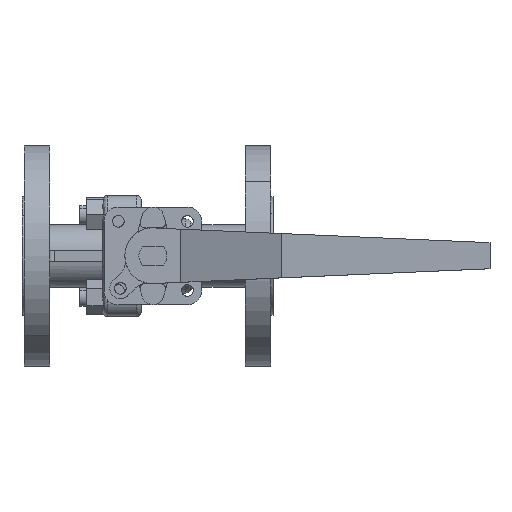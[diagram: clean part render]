
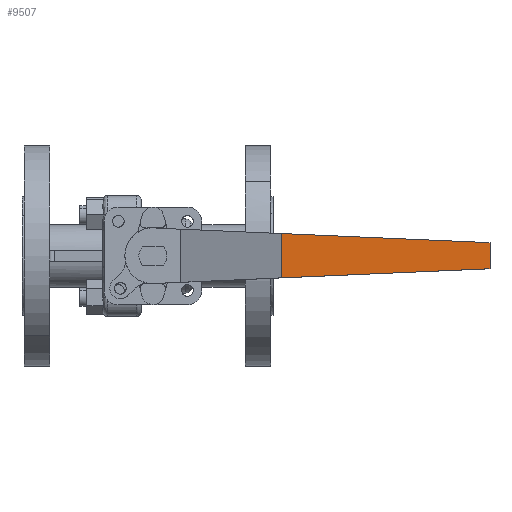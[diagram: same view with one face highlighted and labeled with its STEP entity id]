
A CAD part, top view. The second image highlights one B-rep face of the part: STEP entity #9507.
In plain terms, the highlighted free-form (B-spline) face has degree [1, 1] with [2, 2] control points.
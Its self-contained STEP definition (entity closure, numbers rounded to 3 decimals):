
#9449=CARTESIAN_POINT('',(55.46,73.,-9.529));
#9450=VERTEX_POINT('',#9449);
#9465=CARTESIAN_POINT('',(55.46,73.,9.529));
#9466=VERTEX_POINT('',#9465);
#9472=CARTESIAN_POINT('',(55.46,73.,9.529));
#9473=CARTESIAN_POINT('',(55.46,73.,-9.529));
#9474=QUASI_UNIFORM_CURVE('',1,(#9472,#9473),.UNSPECIFIED.,.F.,.U.);
#9475=EDGE_CURVE('',#9466,#9450,#9474,.T.);
#9480=CARTESIAN_POINT('',(50.988,73.,-10.48));
#9481=CARTESIAN_POINT('',(149.473,73.,-10.48));
#9482=CARTESIAN_POINT('',(50.988,73.,10.48));
#9483=CARTESIAN_POINT('',(149.473,73.,10.48));
#9484=B_SPLINE_SURFACE_WITH_KNOTS('',1,1,((#9480,#9482),(#9481,#9483)),.UNSPECIFIED.,.F.,.F.,.U.,(2,2),(2,2),(0.,98.485),(0.,20.961),.UNSPECIFIED.);
#9485=CARTESIAN_POINT('',(145.,73.,-5.619));
#9486=VERTEX_POINT('',#9485);
#9487=CARTESIAN_POINT('',(145.,73.,-5.619));
#9488=CARTESIAN_POINT('',(55.46,73.,-9.529));
#9489=QUASI_UNIFORM_CURVE('',1,(#9487,#9488),.UNSPECIFIED.,.F.,.U.);
#9490=EDGE_CURVE('',#9486,#9450,#9489,.T.);
#9491=ORIENTED_EDGE('',*,*,#9490,.T.);
#9492=ORIENTED_EDGE('',*,*,#9475,.F.);
#9493=CARTESIAN_POINT('',(145.,73.,5.619));
#9494=VERTEX_POINT('',#9493);
#9495=CARTESIAN_POINT('',(145.,73.,5.619));
#9496=CARTESIAN_POINT('',(55.46,73.,9.529));
#9497=QUASI_UNIFORM_CURVE('',1,(#9495,#9496),.UNSPECIFIED.,.F.,.U.);
#9498=EDGE_CURVE('',#9494,#9466,#9497,.T.);
#9499=ORIENTED_EDGE('',*,*,#9498,.F.);
#9500=CARTESIAN_POINT('',(145.,73.,5.619));
#9501=CARTESIAN_POINT('',(145.,73.,-5.619));
#9502=QUASI_UNIFORM_CURVE('',1,(#9500,#9501),.UNSPECIFIED.,.F.,.U.);
#9503=EDGE_CURVE('',#9494,#9486,#9502,.T.);
#9504=ORIENTED_EDGE('',*,*,#9503,.T.);
#9505=EDGE_LOOP('',(#9491,#9492,#9499,#9504));
#9506=FACE_OUTER_BOUND('',#9505,.T.);
#9507=ADVANCED_FACE('',(#9506),#9484,.F.);
